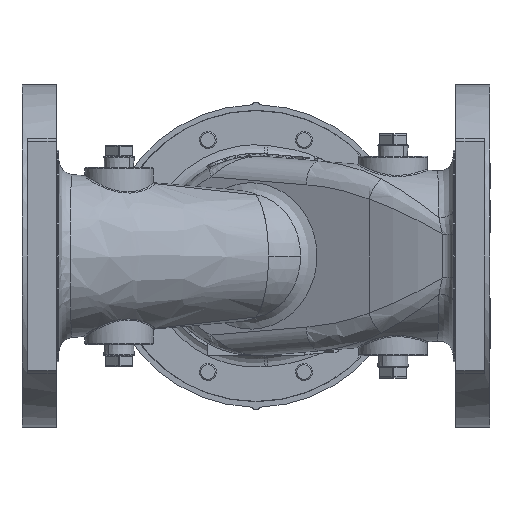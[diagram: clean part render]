
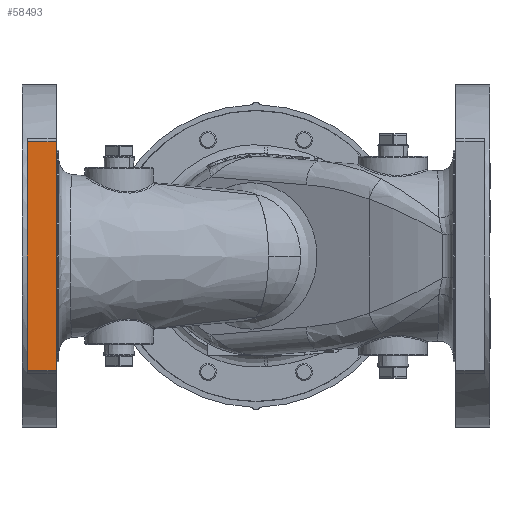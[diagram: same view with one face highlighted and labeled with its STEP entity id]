
A CAD part, front view. The second image highlights one B-rep face of the part: STEP entity #58493.
In plain terms, the highlighted planar face has unit normal (0, -1, 0).
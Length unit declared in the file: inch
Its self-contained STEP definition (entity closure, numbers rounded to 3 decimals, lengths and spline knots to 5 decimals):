
#1376 = FACE_OUTER_BOUND ( 'NONE', #24547, .T. ) ;
#1398 = VECTOR ( 'NONE', #58721, 39.37008 ) ;
#4525 = CARTESIAN_POINT ( 'NONE',  ( -5.005, -3.75, 0. ) ) ;
#4967 = VERTEX_POINT ( 'NONE', #49156 ) ;
#8410 = LINE ( 'NONE', #9034, #9200 ) ;
#8418 = AXIS2_PLACEMENT_3D ( 'NONE', #24991, #10347, #21141 ) ;
#9034 = CARTESIAN_POINT ( 'NONE',  ( -4.375, -3.75, 0. ) ) ;
#9200 = VECTOR ( 'NONE', #33287, 39.37008 ) ;
#9893 = EDGE_CURVE ( 'NONE', #4967, #40117, #10308, .T. ) ;
#9923 = CARTESIAN_POINT ( 'NONE',  ( -5.005, -3.75, 2.5 ) ) ;
#10308 = LINE ( 'NONE', #38728, #51912 ) ;
#10347 = DIRECTION ( 'NONE',  ( 0., 1., 0. ) ) ;
#12493 = ORIENTED_EDGE ( 'NONE', *, *, #9893, .F. ) ;
#12604 = EDGE_CURVE ( 'NONE', #26398, #38189, #8410, .T. ) ;
#14706 = ORIENTED_EDGE ( 'NONE', *, *, #16877, .F. ) ;
#14785 = CARTESIAN_POINT ( 'NONE',  ( -4.375, -3.75, -2.5 ) ) ;
#14853 = DIRECTION ( 'NONE',  ( -1., 0., 0. ) ) ;
#16877 = EDGE_CURVE ( 'NONE', #40117, #44585, #49143, .T. ) ;
#21141 = DIRECTION ( 'NONE',  ( 0., 0., 1. ) ) ;
#24330 = EDGE_CURVE ( 'NONE', #44585, #38189, #39279, .T. ) ;
#24336 = DIRECTION ( 'NONE',  ( 0., 0., 1. ) ) ;
#24547 = EDGE_LOOP ( 'NONE', ( #62643, #55155, #29985, #14706, #12493 ) ) ;
#24991 = CARTESIAN_POINT ( 'NONE',  ( 0., -3.75, 0. ) ) ;
#25301 = PLANE ( 'NONE',  #8418 ) ;
#26398 = VERTEX_POINT ( 'NONE', #14785 ) ;
#28056 = CARTESIAN_POINT ( 'NONE',  ( -4.375, -3.75, 2.5 ) ) ;
#29369 = CARTESIAN_POINT ( 'NONE',  ( -5.005, -3.75, -2.5 ) ) ;
#29702 = CARTESIAN_POINT ( 'NONE',  ( -5.005, -3.75, 2.5 ) ) ;
#29985 = ORIENTED_EDGE ( 'NONE', *, *, #24330, .F. ) ;
#33287 = DIRECTION ( 'NONE',  ( 0., 0., 1. ) ) ;
#38189 = VERTEX_POINT ( 'NONE', #28056 ) ;
#38728 = CARTESIAN_POINT ( 'NONE',  ( -5.005, -3.75, -2.5 ) ) ;
#38812 = LINE ( 'NONE', #49300, #43745 ) ;
#39271 = DIRECTION ( 'NONE',  ( 0., 0., 1. ) ) ;
#39279 = LINE ( 'NONE', #9923, #1398 ) ;
#40117 = VERTEX_POINT ( 'NONE', #4525 ) ;
#40372 = VECTOR ( 'NONE', #39271, 39.37008 ) ;
#43745 = VECTOR ( 'NONE', #14853, 39.37008 ) ;
#44585 = VERTEX_POINT ( 'NONE', #29702 ) ;
#49143 = LINE ( 'NONE', #29369, #40372 ) ;
#49156 = CARTESIAN_POINT ( 'NONE',  ( -5.005, -3.75, -2.5 ) ) ;
#49300 = CARTESIAN_POINT ( 'NONE',  ( -5.005, -3.75, -2.5 ) ) ;
#49696 = EDGE_CURVE ( 'NONE', #26398, #4967, #38812, .T. ) ;
#51912 = VECTOR ( 'NONE', #24336, 39.37008 ) ;
#55155 = ORIENTED_EDGE ( 'NONE', *, *, #12604, .T. ) ;
#58493 = ADVANCED_FACE ( 'NONE', ( #1376 ), #25301, .F. ) ;
#58721 = DIRECTION ( 'NONE',  ( 1., 0., 0. ) ) ;
#62643 = ORIENTED_EDGE ( 'NONE', *, *, #49696, .F. ) ;
